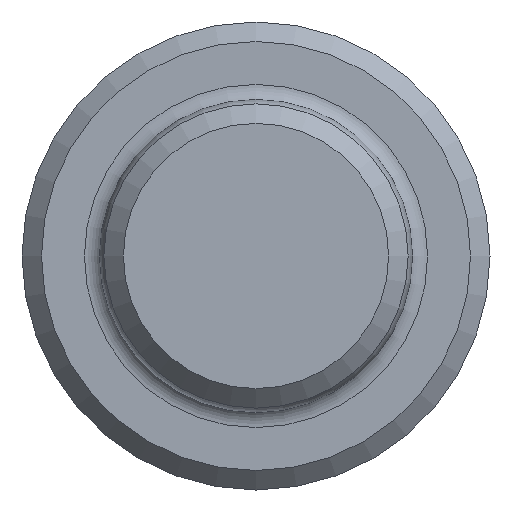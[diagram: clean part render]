
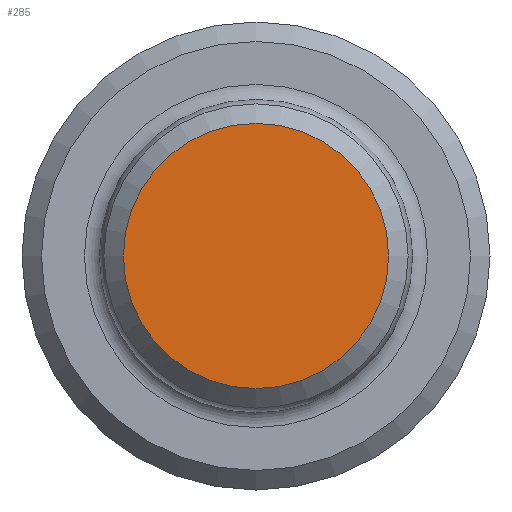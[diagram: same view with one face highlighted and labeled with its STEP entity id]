
A CAD part, front view. The second image highlights one B-rep face of the part: STEP entity #285.
In plain terms, the highlighted planar face has unit normal (0, -1, 0).
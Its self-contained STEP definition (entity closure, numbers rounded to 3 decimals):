
#27 = FACE_OUTER_BOUND ( 'NONE', #147, .T. ) ;
#48 = CIRCLE ( 'NONE', #258, 3.4 ) ;
#96 = VERTEX_POINT ( 'NONE', #388 ) ;
#147 = EDGE_LOOP ( 'NONE', ( #158 ) ) ;
#158 = ORIENTED_EDGE ( 'NONE', *, *, #206, .T. ) ;
#206 = EDGE_CURVE ( 'NONE', #96, #96, #48, .T. ) ;
#253 = AXIS2_PLACEMENT_3D ( 'NONE', #419, #415, #414 ) ;
#258 = AXIS2_PLACEMENT_3D ( 'NONE', #489, #491, #490 ) ;
#285 = ADVANCED_FACE ( 'NONE', ( #27 ), #421, .F. ) ;
#388 = CARTESIAN_POINT ( 'NONE',  ( -3.4, -6., 0. ) ) ;
#414 = DIRECTION ( 'NONE',  ( -1., 0., 0. ) ) ;
#415 = DIRECTION ( 'NONE',  ( 0., 1., 0. ) ) ;
#419 = CARTESIAN_POINT ( 'NONE',  ( -3.9, -6., 0. ) ) ;
#421 = PLANE ( 'NONE',  #253 ) ;
#489 = CARTESIAN_POINT ( 'NONE',  ( 0., -6., 0. ) ) ;
#490 = DIRECTION ( 'NONE',  ( -1., 0., 0. ) ) ;
#491 = DIRECTION ( 'NONE',  ( 0., -1., 0. ) ) ;
